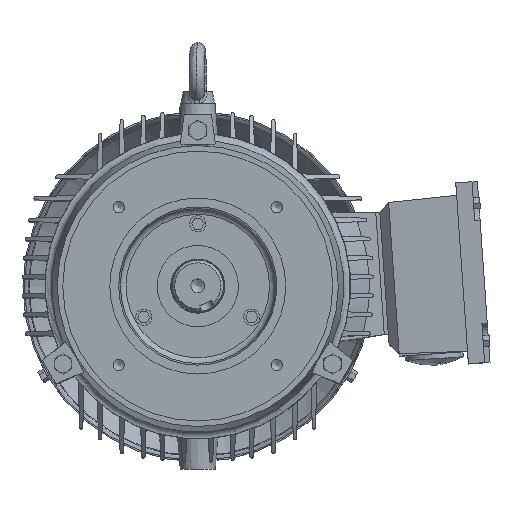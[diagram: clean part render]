
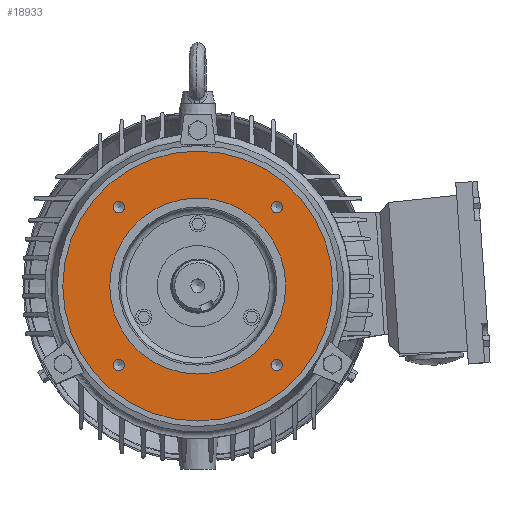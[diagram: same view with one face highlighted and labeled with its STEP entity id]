
A CAD part, top view. The second image highlights one B-rep face of the part: STEP entity #18933.
In plain terms, the highlighted planar face has unit normal (0, 0, 1) as drawn and (-1, 0, 0) by its records, which use the part's own axes.
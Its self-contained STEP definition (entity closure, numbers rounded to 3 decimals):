
#216=FACE_BOUND('',#3236,.T.);
#217=FACE_BOUND('',#3237,.T.);
#218=FACE_BOUND('',#3238,.T.);
#219=FACE_BOUND('',#3239,.T.);
#220=FACE_BOUND('',#3240,.T.);
#907=PLANE('',#20263);
#2063=FACE_OUTER_BOUND('',#3235,.T.);
#3235=EDGE_LOOP('',(#14733));
#3236=EDGE_LOOP('',(#14734));
#3237=EDGE_LOOP('',(#14735));
#3238=EDGE_LOOP('',(#14736));
#3239=EDGE_LOOP('',(#14737));
#3240=EDGE_LOOP('',(#14738));
#8307=CIRCLE('',#20158,4.25);
#8309=CIRCLE('',#20162,4.25);
#8311=CIRCLE('',#20166,4.25);
#8313=CIRCLE('',#20170,4.25);
#8338=CIRCLE('',#20209,65.);
#8339=CIRCLE('',#20211,99.75);
#8979=VERTEX_POINT('',#43624);
#8982=VERTEX_POINT('',#43633);
#8985=VERTEX_POINT('',#43642);
#8988=VERTEX_POINT('',#43651);
#9013=VERTEX_POINT('',#43728);
#9014=VERTEX_POINT('',#43732);
#11028=EDGE_CURVE('',#8979,#8979,#8307,.T.);
#11032=EDGE_CURVE('',#8982,#8982,#8309,.T.);
#11036=EDGE_CURVE('',#8985,#8985,#8311,.T.);
#11040=EDGE_CURVE('',#8988,#8988,#8313,.T.);
#11078=EDGE_CURVE('',#9013,#9013,#8338,.T.);
#11079=EDGE_CURVE('',#9014,#9014,#8339,.T.);
#14733=ORIENTED_EDGE('',*,*,#11079,.T.);
#14734=ORIENTED_EDGE('',*,*,#11028,.F.);
#14735=ORIENTED_EDGE('',*,*,#11032,.F.);
#14736=ORIENTED_EDGE('',*,*,#11036,.F.);
#14737=ORIENTED_EDGE('',*,*,#11040,.F.);
#14738=ORIENTED_EDGE('',*,*,#11078,.F.);
#18933=ADVANCED_FACE('',(#2063,#216,#217,#218,#219,#220),#907,.F.);
#20158=AXIS2_PLACEMENT_3D('',#43626,#22136,#22137);
#20162=AXIS2_PLACEMENT_3D('',#43635,#22146,#22147);
#20166=AXIS2_PLACEMENT_3D('',#43644,#22156,#22157);
#20170=AXIS2_PLACEMENT_3D('',#43653,#22166,#22167);
#20209=AXIS2_PLACEMENT_3D('',#43730,#22257,#22258);
#20211=AXIS2_PLACEMENT_3D('',#43733,#22261,#22262);
#20263=AXIS2_PLACEMENT_3D('',#44150,#22426,#22427);
#22136=DIRECTION('center_axis',(-1.,0.,0.));
#22137=DIRECTION('ref_axis',(0.,0.,1.));
#22146=DIRECTION('center_axis',(-1.,0.,0.));
#22147=DIRECTION('ref_axis',(0.,0.,1.));
#22156=DIRECTION('center_axis',(-1.,0.,0.));
#22157=DIRECTION('ref_axis',(0.,0.,1.));
#22166=DIRECTION('center_axis',(-1.,0.,0.));
#22167=DIRECTION('ref_axis',(0.,0.,1.));
#22257=DIRECTION('center_axis',(-1.,0.,0.));
#22258=DIRECTION('ref_axis',(0.,0.,1.));
#22261=DIRECTION('center_axis',(-1.,0.,0.));
#22262=DIRECTION('ref_axis',(0.,0.,1.));
#22426=DIRECTION('center_axis',(1.,0.,0.));
#22427=DIRECTION('ref_axis',(0.,0.,-1.));
#43624=CARTESIAN_POINT('',(-8.,58.336,54.086));
#43626=CARTESIAN_POINT('Origin',(-8.,58.336,58.336));
#43633=CARTESIAN_POINT('',(-8.,-58.336,54.086));
#43635=CARTESIAN_POINT('Origin',(-8.,-58.336,58.336));
#43642=CARTESIAN_POINT('',(-8.,-58.336,-62.586));
#43644=CARTESIAN_POINT('Origin',(-8.,-58.336,-58.336));
#43651=CARTESIAN_POINT('',(-8.,58.336,-62.586));
#43653=CARTESIAN_POINT('Origin',(-8.,58.336,-58.336));
#43728=CARTESIAN_POINT('',(-8.,0.,-65.));
#43730=CARTESIAN_POINT('Origin',(-8.,0.,0.));
#43732=CARTESIAN_POINT('',(-8.,0.,-99.75));
#43733=CARTESIAN_POINT('Origin',(-8.,0.,0.));
#44150=CARTESIAN_POINT('Origin',(-8.,65.,0.));
